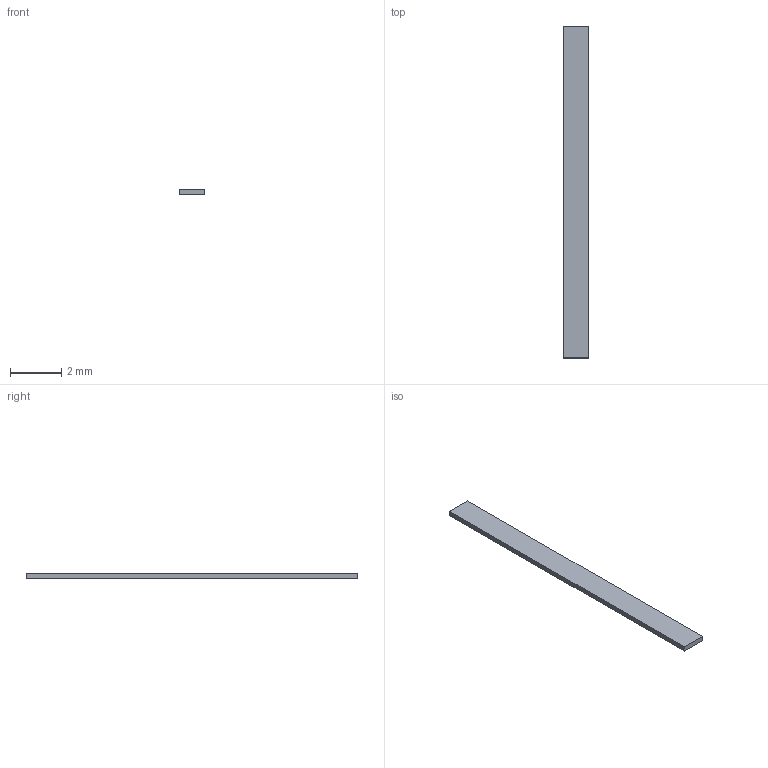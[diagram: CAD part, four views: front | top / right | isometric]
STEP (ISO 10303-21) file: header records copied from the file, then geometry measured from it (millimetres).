
FILE_DESCRIPTION(('Open CASCADE Model'),'2;1');
FILE_NAME('Open CASCADE Shape Model','2026-10-01T12:35:22',('Author'),( 'Open CASCADE'),'Open CASCADE STEP processor 7.8','Open CASCADE 7.8' ,'Unknown');
FILE_SCHEMA(('AUTOMOTIVE_DESIGN { 1 0 10303 214 1 1 1 1 }'));
Length unit declared in the file: millimetre
Products named in the file (2): H06_USB_edge_pad_-34.5; H06_USB_edge_pad_-34.5_solid
Assembly tree (1 placements, depth 2):
  H06_USB_edge_pad_-34.5
    H06_USB_edge_pad_-34.5_solid
Bounding box: 1 x 13 x 0.2 mm (x, y, z)
Volume: 2.6 mm3; surface area: 31.6 mm2
Topology: 1 solids, 1 shells, 6 faces, 12 edges, 8 vertices
Faces by surface type: plane 6
Entity records: 349 total; most frequent: CARTESIAN_POINT 52, DIRECTION 52, LINE 36, VECTOR 36, ORIENTED_EDGE 24, PCURVE 24, DEFINITIONAL_REPRESENTATION 24, EDGE_CURVE 12
